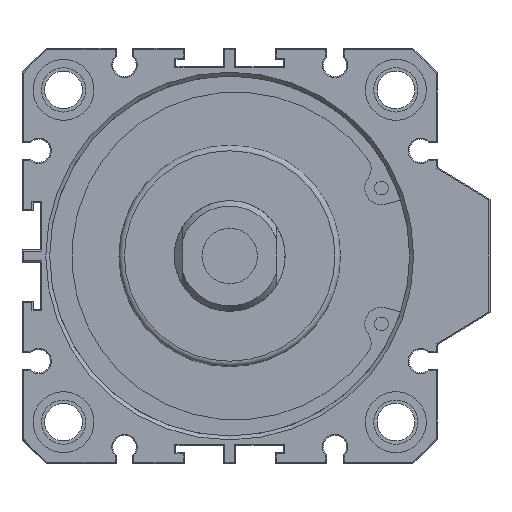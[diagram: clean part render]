
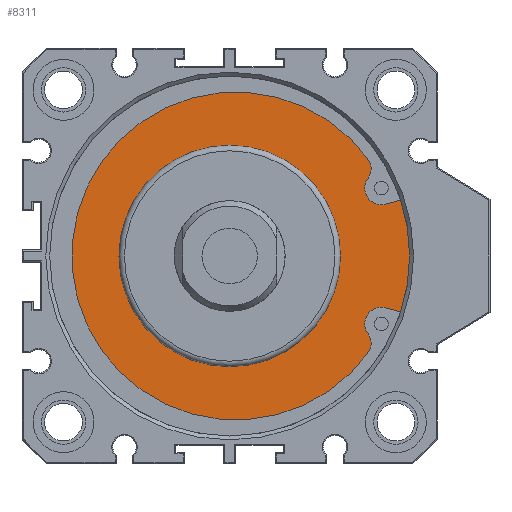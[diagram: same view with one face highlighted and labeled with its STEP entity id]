
A CAD part, front view. The second image highlights one B-rep face of the part: STEP entity #8311.
In plain terms, the highlighted planar face has unit normal (0, -1, 0).
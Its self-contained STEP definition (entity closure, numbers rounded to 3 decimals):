
#496=LINE('',#11933,#1076);
#497=LINE('',#11945,#1077);
#1076=VECTOR('',#10087,1000.);
#1077=VECTOR('',#10098,1000.);
#1368=PLANE('',#8843);
#2202=ORIENTED_EDGE('',*,*,#3613,.T.);
#2203=ORIENTED_EDGE('',*,*,#3614,.T.);
#2204=ORIENTED_EDGE('',*,*,#3615,.T.);
#2205=ORIENTED_EDGE('',*,*,#3616,.T.);
#2206=ORIENTED_EDGE('',*,*,#3617,.T.);
#2207=ORIENTED_EDGE('',*,*,#3618,.T.);
#2208=ORIENTED_EDGE('',*,*,#3619,.T.);
#2209=ORIENTED_EDGE('',*,*,#3611,.F.);
#2210=ORIENTED_EDGE('',*,*,#3620,.T.);
#3611=EDGE_CURVE('',#4290,#4291,#4475,.T.);
#3613=EDGE_CURVE('',#4290,#4292,#496,.T.);
#3614=EDGE_CURVE('',#4292,#4293,#4476,.T.);
#3615=EDGE_CURVE('',#4293,#4294,#4477,.T.);
#3616=EDGE_CURVE('',#4294,#4295,#4478,.T.);
#3617=EDGE_CURVE('',#4295,#4296,#4479,.T.);
#3618=EDGE_CURVE('',#4296,#4297,#4480,.T.);
#3619=EDGE_CURVE('',#4297,#4291,#497,.T.);
#3620=EDGE_CURVE('',#4298,#4298,#4481,.T.);
#4290=VERTEX_POINT('',#11928);
#4291=VERTEX_POINT('',#11930);
#4292=VERTEX_POINT('',#11934);
#4293=VERTEX_POINT('',#11936);
#4294=VERTEX_POINT('',#11938);
#4295=VERTEX_POINT('',#11940);
#4296=VERTEX_POINT('',#11942);
#4297=VERTEX_POINT('',#11944);
#4298=VERTEX_POINT('',#11947);
#4475=CIRCLE('',#8842,34.);
#4476=CIRCLE('',#8844,3.015);
#4477=CIRCLE('',#8845,3.015);
#4478=CIRCLE('',#8846,29.6);
#4479=CIRCLE('',#8847,3.015);
#4480=CIRCLE('',#8848,3.015);
#4481=CIRCLE('',#8849,20.);
#4718=EDGE_LOOP('',(#2202,#2203,#2204,#2205,#2206,#2207,#2208,#2209));
#4719=EDGE_LOOP('',(#2210));
#5174=FACE_BOUND('',#4718,.T.);
#5175=FACE_BOUND('',#4719,.T.);
#8311=ADVANCED_FACE('',(#5174,#5175),#1368,.T.);
#8842=AXIS2_PLACEMENT_3D('',#11929,#10082,#10083);
#8843=AXIS2_PLACEMENT_3D('',#11932,#10085,#10086);
#8844=AXIS2_PLACEMENT_3D('',#11935,#10088,#10089);
#8845=AXIS2_PLACEMENT_3D('',#11937,#10090,#10091);
#8846=AXIS2_PLACEMENT_3D('',#11939,#10092,#10093);
#8847=AXIS2_PLACEMENT_3D('',#11941,#10094,#10095);
#8848=AXIS2_PLACEMENT_3D('',#11943,#10096,#10097);
#8849=AXIS2_PLACEMENT_3D('',#11946,#10099,#10100);
#10082=DIRECTION('',(0.,1.,0.));
#10083=DIRECTION('',(-1.,0.,0.));
#10085=DIRECTION('',(0.,-1.,0.));
#10086=DIRECTION('',(1.,0.,0.));
#10087=DIRECTION('',(-0.966,0.,-0.259));
#10088=DIRECTION('',(0.,1.,0.));
#10089=DIRECTION('',(1.,0.,0.));
#10090=DIRECTION('',(0.,-1.,0.));
#10091=DIRECTION('',(-1.,0.,0.));
#10092=DIRECTION('',(0.,-1.,0.));
#10093=DIRECTION('',(1.,0.,0.));
#10094=DIRECTION('',(0.,-1.,0.));
#10095=DIRECTION('',(-1.,0.,0.));
#10096=DIRECTION('',(0.,1.,0.));
#10097=DIRECTION('',(1.,0.,0.));
#10098=DIRECTION('',(0.966,0.,-0.259));
#10099=DIRECTION('',(0.,1.,0.));
#10100=DIRECTION('',(-1.,0.,0.));
#11928=CARTESIAN_POINT('',(32.347,5.2,10.472));
#11929=CARTESIAN_POINT('',(0.,5.2,0.));
#11930=CARTESIAN_POINT('',(32.347,5.2,-10.472));
#11932=CARTESIAN_POINT('',(0.,5.2,-34.));
#11933=CARTESIAN_POINT('',(32.347,5.2,10.472));
#11934=CARTESIAN_POINT('',(28.176,5.2,9.354));
#11935=CARTESIAN_POINT('',(27.396,5.2,12.266));
#11936=CARTESIAN_POINT('',(25.131,5.2,14.255));
#11937=CARTESIAN_POINT('',(22.522,5.2,15.766));
#11938=CARTESIAN_POINT('',(25.115,5.2,17.305));
#11939=CARTESIAN_POINT('',(1.1,5.2,0.));
#11940=CARTESIAN_POINT('',(25.115,5.2,-17.305));
#11941=CARTESIAN_POINT('',(22.522,5.2,-15.766));
#11942=CARTESIAN_POINT('',(25.131,5.2,-14.255));
#11943=CARTESIAN_POINT('',(27.396,5.2,-12.266));
#11944=CARTESIAN_POINT('',(28.176,5.2,-9.354));
#11945=CARTESIAN_POINT('',(28.176,5.2,-9.354));
#11946=CARTESIAN_POINT('',(0.,5.2,0.));
#11947=CARTESIAN_POINT('',(-20.,5.2,0.));
